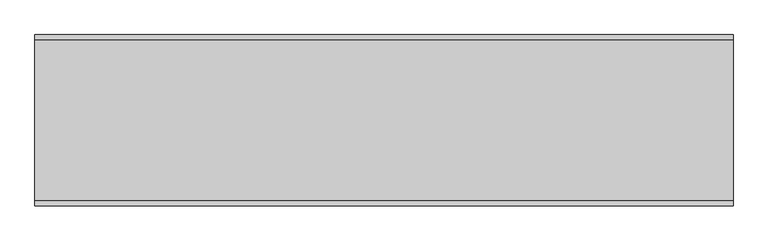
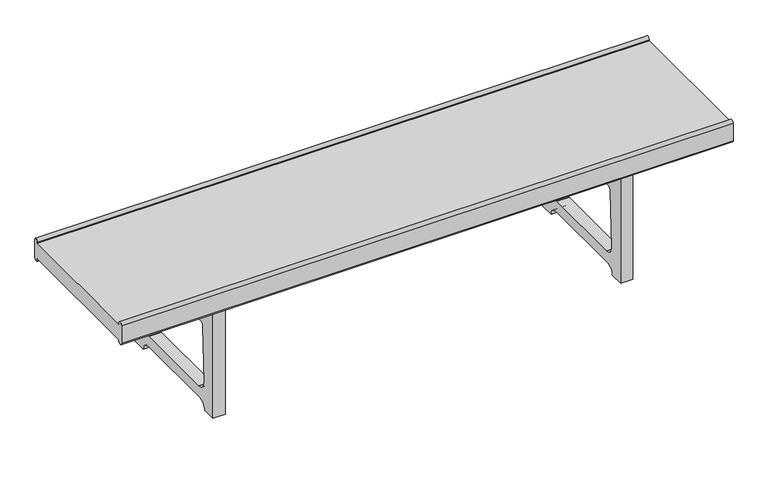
"""IFC4 building model written with IfcOpenShell, lengths in millimetres: furniture geometry, Krobo 150 : Krobo 150."""

import ifcopenshell
import ifcopenshell.guid

model = None  # the IFC model being written
_history = None  # IfcOwnerHistory: only IFC2X3 demands one
_inside = {}  # id of a spatial element -> (the spatial element, [elements in it])
_under = {}  # id of a project, library or spatial element -> (it, [spatial elements below it])
_declared = {}  # id of a project -> (the project, [libraries it declares])
_typed = {}  # id of a type object -> (the type object, [elements of that type])
_made_of = {}  # id of a material, layer set ... -> (it, [elements and type objects made of it])


def new_model(schema):
    """Start an empty IFC model of exactly this schema.

    Asked for "IFC4X3", IfcOpenShell would pick the latest addendum, in which some entities
    have other attributes; the version numbers below select the first issue.
    IFC2X3 requires an IfcOwnerHistory on every rooted entity: one is made here for all.
    """
    global model, _history
    if schema == "IFC4X3":
        model = ifcopenshell.file(schema_version=(4, 3, 0, 0))
    else:
        model = ifcopenshell.file(schema=schema)
    _inside.clear()
    _under.clear()
    _declared.clear()
    _typed.clear()
    _made_of.clear()
    _history = None
    if model.schema == "IFC2X3":
        org = make("IfcOrganization", Name="unknown")
        user = make(
            "IfcPersonAndOrganization",
            ThePerson=make("IfcPerson", FamilyName="unknown"),
            TheOrganization=org,
        )
        app = make(
            "IfcApplication",
            ApplicationDeveloper=org,
            Version="unknown",
            ApplicationFullName="unknown",
            ApplicationIdentifier="unknown",
        )
        _history = make(
            "IfcOwnerHistory",
            OwningUser=user,
            OwningApplication=app,
            ChangeAction="ADDED",
            CreationDate=0,
        )
    return model


def make(cls, **values):
    """One entity of the class cls with the attributes given. An attribute that is None is left unset."""
    return model.create_entity(
        cls, **{name: value for name, value in values.items() if value is not None}
    )


def rooted(cls, **values):
    """An entity with a GlobalId (a new one), such as an element, a storey or a relation."""
    return make(cls, GlobalId=ifcopenshell.guid.new(), OwnerHistory=_history, **values)


def si_unit(unit_type, name, prefix=None):
    """IfcSIUnit, for example si_unit("LENGTHUNIT", "METRE", prefix="MILLI")."""
    return make("IfcSIUnit", UnitType=unit_type, Prefix=prefix, Name=name)


def assignment(units):
    """IfcUnitAssignment: the units of a project."""
    return None if units is None else make("IfcUnitAssignment", Units=units)


def point(xyz):
    """IfcCartesianPoint."""
    return None if xyz is None else make("IfcCartesianPoint", Coordinates=xyz)


def direction(xyz):
    """IfcDirection."""
    return None if xyz is None else make("IfcDirection", DirectionRatios=xyz)


def frame(location, z_axis=None, x_axis=None):
    """IfcAxis2Placement3D, a coordinate frame: its origin and axes. An axis left out is left unset."""
    return make(
        "IfcAxis2Placement3D",
        Location=point(location),
        Axis=direction(z_axis),
        RefDirection=direction(x_axis),
    )


def frame_2d(location, x_axis=None):
    """IfcAxis2Placement2D, a coordinate frame in the plane: its origin and x axis."""
    return make(
        "IfcAxis2Placement2D", Location=point(location), RefDirection=direction(x_axis)
    )


def origin():
    """The frame at (0, 0, 0) with its axes left unset."""
    return frame((0.0, 0.0, 0.0))


def place(relative_to, where):
    """IfcLocalPlacement: puts the frame where relative to a parent placement (None: the world)."""
    return make(
        "IfcLocalPlacement", PlacementRelTo=relative_to, RelativePlacement=where
    )


def context(
    kind, dimensions, precision=None, world=None, true_north=None, identifier=None
):
    """IfcGeometricRepresentationContext, for example the 3D "Model" context."""
    return make(
        "IfcGeometricRepresentationContext",
        ContextIdentifier=identifier,
        ContextType=kind,
        CoordinateSpaceDimension=dimensions,
        Precision=precision,
        WorldCoordinateSystem=world,
        TrueNorth=true_north,
    )


def project(units=None, contexts=None):
    """IfcProject with its units and contexts."""
    return rooted(
        "IfcProject",
        Name="project",
        RepresentationContexts=contexts,
        UnitsInContext=assignment(units),
    )


def spatial(cls, under=None, at=None, **own):
    """A site, building, storey or space (cls), placed at a placement, below another one or the project."""
    s = rooted(cls, ObjectPlacement=at, **own)
    if under is not None:
        _under.setdefault(under.id(), (under, []))[1].append(s)
    return s


def polyline(points):
    """IfcPolyline through the points."""
    return make("IfcPolyline", Points=[point(p) for p in points])


def circle_curve(where, radius):
    """IfcCircle in the frame where."""
    return make("IfcCircle", Position=where, Radius=radius)


def trimmed(basis, trim1, trim2, sense, master):
    """IfcTrimmedCurve: the piece of a basis curve between two trims."""
    return make(
        "IfcTrimmedCurve",
        BasisCurve=basis,
        Trim1=trim1,
        Trim2=trim2,
        SenseAgreement=sense,
        MasterRepresentation=master,
    )


def segment(curve, same_sense, transition):
    """IfcCompositeCurveSegment."""
    return make(
        "IfcCompositeCurveSegment",
        Transition=transition,
        SameSense=same_sense,
        ParentCurve=curve,
    )


def composite_curve(segments, self_intersect=None):
    """IfcCompositeCurve: segments joined end to end."""
    return make("IfcCompositeCurve", Segments=segments, SelfIntersect=self_intersect)


def outline(outer, holes=None, kind="AREA"):
    """IfcArbitraryClosedProfileDef: a profile drawn as a closed curve; with holes, ...WithVoids."""
    if holes is None:
        return make("IfcArbitraryClosedProfileDef", ProfileType=kind, OuterCurve=outer)
    return make(
        "IfcArbitraryProfileDefWithVoids",
        ProfileType=kind,
        OuterCurve=outer,
        InnerCurves=holes,
    )


def extrude(swept, where, along, depth):
    """IfcExtrudedAreaSolid: the profile swept, set in the frame where, extruded along a direction by depth."""
    return make(
        "IfcExtrudedAreaSolid",
        SweptArea=swept,
        Position=where,
        ExtrudedDirection=direction(along),
        Depth=depth,
    )


def shape(context_of_items, identifier, shape_type, items):
    """IfcShapeRepresentation: the items that make up one representation, for example the "Body"."""
    return make(
        "IfcShapeRepresentation",
        ContextOfItems=context_of_items,
        RepresentationIdentifier=identifier,
        RepresentationType=shape_type,
        Items=items,
    )


def source(mapping_origin, context_of_items, identifier, shape_type, items):
    """IfcRepresentationMap: a shape defined once, which mapped items show again and again."""
    return make(
        "IfcRepresentationMap",
        MappingOrigin=mapping_origin,
        MappedRepresentation=shape(context_of_items, identifier, shape_type, items),
    )


def transform(
    local_origin,
    x_axis=None,
    y_axis=None,
    z_axis=None,
    scale=None,
    scale2=None,
    scale3=None,
    uniform=True,
):
    """IfcCartesianTransformationOperator3D, or its non-uniform kind. x_axis, y_axis, z_axis: its Axis1, 2, 3."""
    if uniform:
        return make(
            "IfcCartesianTransformationOperator3D",
            Axis1=direction(x_axis),
            Axis2=direction(y_axis),
            LocalOrigin=point(local_origin),
            Scale=scale,
            Axis3=direction(z_axis),
        )
    return make(
        "IfcCartesianTransformationOperator3DnonUniform",
        Axis1=direction(x_axis),
        Axis2=direction(y_axis),
        LocalOrigin=point(local_origin),
        Scale=scale,
        Axis3=direction(z_axis),
        Scale2=scale2,
        Scale3=scale3,
    )


def mapped(mapping_source, mapping_target):
    """IfcMappedItem: shows the shape of a source again, moved by a transform."""
    return make(
        "IfcMappedItem", MappingSource=mapping_source, MappingTarget=mapping_target
    )


def made_of(thing, what):
    """Note that an element or type object is made of a material, layer set ...; save() writes the relation."""
    if what is not None:
        _made_of.setdefault(what.id(), (what, []))[1].append(thing)
    return thing


def element(
    cls,
    number,
    at=None,
    inside=None,
    cuts=None,
    type_object=None,
    material=None,
    context=None,
    identifier="Body",
    shape_type=None,
    held_by="IfcProductDefinitionShape",
    body=None,
    shapes=None,
    **own,
):
    """One element of the class cls, such as IfcWall. Its Tag is "e" and its number.

    at: its placement. inside: the storey or other place that contains it. cuts: it is an
    opening in that element (IfcRelVoidsElement). A single representation is given by context,
    identifier, shape_type and body (its items); several are given by shapes. held_by: the class
    of the entity that holds the representations. save() writes the other relations.
    """
    e = rooted(cls, Tag="e%d" % number, ObjectPlacement=at, **own)
    if body is not None:
        shapes = [shape(context, identifier, shape_type, body)]
    if shapes is not None:
        e.Representation = make(held_by, Representations=shapes)
    if inside is not None:
        _inside.setdefault(inside.id(), (inside, []))[1].append(e)
    if cuts is not None:
        rooted(
            "IfcRelVoidsElement", RelatingBuildingElement=cuts, RelatedOpeningElement=e
        )
    if type_object is not None:
        _typed.setdefault(type_object.id(), (type_object, []))[1].append(e)
    return made_of(e, material)


def aggregate(whole, parts):
    """IfcRelAggregates: a whole, such as a stair, and the parts it consists of."""
    return rooted("IfcRelAggregates", RelatingObject=whole, RelatedObjects=parts)


def save(model, path):
    """Write the relations noted so far, then the file.

    IfcRelAggregates (storeys below a building ...), IfcRelContainedInSpatialStructure (elements
    in a storey), IfcRelDefinesByType, IfcRelAssociatesMaterial and IfcRelDeclares: one each for
    every whole, place, type object, material and project.
    """
    for whole, parts in _under.values():
        aggregate(whole, parts)
    for where, things in _inside.values():
        rooted(
            "IfcRelContainedInSpatialStructure",
            RelatedElements=things,
            RelatingStructure=where,
        )
    for kind, things in _typed.values():
        rooted("IfcRelDefinesByType", RelatedObjects=things, RelatingType=kind)
    for what, things in _made_of.values():
        rooted("IfcRelAssociatesMaterial", RelatedObjects=things, RelatingMaterial=what)
    for by, libraries in _declared.values():
        rooted("IfcRelDeclares", RelatingContext=by, RelatedDefinitions=libraries)
    model.write(path)


def furniture_7ae28927(model_context):
    return source(origin(), model_context, "Body", "SweptSolid", [
        extrude(outline(polyline([(221.4777934, -911.8892434), (221.4777934, -941.8892434), (291.4777934, -1068.1725863), (291.4777934, -1108.1725863), (288.4777934, -1108.1725863), (288.4777934, -1068.9484391), (218.4777934, -942.6650962), (218.4777934, -911.1133907), (288.4777934, -784.8300478), (288.4777934, -745.6059006), (291.4777934, -745.6059006), (291.4777934, -785.6059006), (221.4777934, -911.8892434)])), frame((0.0, -91.1720243, 0.0), z_axis=(0.0, 1.0, 0.0), x_axis=(0.0, 0.0, 1.0)), (0.0, 0.0, 1.0), 40.0),
        extrude(outline(composite_curve([segment(polyline([(-236.1720243, 0.0), (-236.1720243, 291.4777934), (93.8279757, 291.4777934), (93.8279757, 0.0), (58.9655776, 0.0)]), True, "CONTINUOUS"), segment(trimmed(circle_curve(frame_2d((39.0776023, 0.1117109)), 19.8882891), [point((58.9655776, 0.0))], [point((39.0776023, 20.0))], True, "CARTESIAN"), True, "CONTINUOUS"), segment(polyline([(39.0776023, 20.0), (-181.4216509, 20.0)]), True, "CONTINUOUS"), segment(trimmed(circle_curve(frame_2d((-181.4216509, 0.1117109)), 19.8882891), [point((-181.4216509, 20.0))], [point((-201.3096263, 0.0))], True, "CARTESIAN"), True, "CONTINUOUS"), segment(polyline([(-201.3096263, 0.0), (-236.1720243, 0.0)]), True, "CONTINUOUS")], self_intersect=False), holes=[composite_curve([segment(polyline([(38.5085476, 221.4777934), (-180.8525962, 221.4777934)]), True, "CONTINUOUS"), segment(trimmed(circle_curve(frame_2d((-180.8525962, 211.4777934)), 10.0), [point((-180.8525962, 221.4777934))], [point((-190.8446916, 211.8753226))], True, "CARTESIAN"), True, "CONTINUOUS"), segment(polyline([(-190.8446916, 211.8753226), (-196.4291755, 71.5065322)]), True, "CONTINUOUS"), segment(trimmed(circle_curve(frame_2d((-176.6359804, 68.6378341)), 20.0), [point((-196.4291755, 71.5065322))], [point((-176.6359804, 48.6378341))], True, "CARTESIAN"), True, "CONTINUOUS"), segment(polyline([(-176.6359804, 48.6378341), (34.2919318, 48.6378341)]), True, "CONTINUOUS"), segment(trimmed(circle_curve(frame_2d((34.2919318, 68.6378341)), 20.0), [point((34.2919318, 48.6378341))], [point((54.0851268, 71.5065322))], True, "CARTESIAN"), True, "CONTINUOUS"), segment(polyline([(54.0851268, 71.5065322), (48.500643, 211.8753226)]), True, "CONTINUOUS"), segment(trimmed(circle_curve(frame_2d((38.5085476, 211.4777934)), 10.0), [point((48.500643, 211.8753226))], [point((38.5085476, 221.4777934))], True, "CARTESIAN"), True, "CONTINUOUS")], self_intersect=False)]), frame((-941.8892434, 0.0, 0.0), z_axis=(1.0, 0.0, 0.0), x_axis=(0.0, 1.0, 0.0)), (0.0, 0.0, 1.0), 30.0),
        extrude(outline(polyline([(221.4777934, 58.0486284), (291.4777934, -68.2347145), (291.4777934, -108.2347145), (288.4777934, -108.2347145), (288.4777934, -69.0105672), (218.4777934, 57.2727756), (218.4777934, 88.8244812), (288.4777934, 215.107824), (288.4777934, 254.3319713), (291.4777934, 254.3319713), (291.4777934, 214.3319713), (221.4777934, 88.0486284), (221.4777934, 58.0486284)])), frame((0.0, -91.1720243, 0.0), z_axis=(0.0, 1.0, 0.0), x_axis=(0.0, 0.0, 1.0)), (0.0, 0.0, 1.0), 40.0),
        extrude(outline(composite_curve([segment(polyline([(-236.1720243, 0.0), (-236.1720243, 291.4777934), (93.8279757, 291.4777934), (93.8279757, 0.0), (58.9655776, 0.0)]), True, "CONTINUOUS"), segment(trimmed(circle_curve(frame_2d((39.0776023, 0.1117109)), 19.8882891), [point((58.9655776, 0.0))], [point((39.0776023, 20.0))], True, "CARTESIAN"), True, "CONTINUOUS"), segment(polyline([(39.0776023, 20.0), (-181.4216509, 20.0)]), True, "CONTINUOUS"), segment(trimmed(circle_curve(frame_2d((-181.4216509, 0.1117109)), 19.8882891), [point((-181.4216509, 20.0))], [point((-201.3096263, 0.0))], True, "CARTESIAN"), True, "CONTINUOUS"), segment(polyline([(-201.3096263, 0.0), (-236.1720243, 0.0)]), True, "CONTINUOUS")], self_intersect=False), holes=[composite_curve([segment(polyline([(38.5085476, 221.4777934), (-180.8525962, 221.4777934)]), True, "CONTINUOUS"), segment(trimmed(circle_curve(frame_2d((-180.8525962, 211.4777934)), 10.0), [point((-180.8525962, 221.4777934))], [point((-190.8446916, 211.8753226))], True, "CARTESIAN"), True, "CONTINUOUS"), segment(polyline([(-190.8446916, 211.8753226), (-196.4291755, 71.5065322)]), True, "CONTINUOUS"), segment(trimmed(circle_curve(frame_2d((-176.6359804, 68.6378341)), 20.0), [point((-196.4291755, 71.5065322))], [point((-176.6359804, 48.6378341))], True, "CARTESIAN"), True, "CONTINUOUS"), segment(polyline([(-176.6359804, 48.6378341), (34.2919318, 48.6378341)]), True, "CONTINUOUS"), segment(trimmed(circle_curve(frame_2d((34.2919318, 68.6378341)), 20.0), [point((34.2919318, 48.6378341))], [point((54.0851268, 71.5065322))], True, "CARTESIAN"), True, "CONTINUOUS"), segment(polyline([(54.0851268, 71.5065322), (48.500643, 211.8753226)]), True, "CONTINUOUS"), segment(trimmed(circle_curve(frame_2d((38.5085476, 211.4777934)), 10.0), [point((48.500643, 211.8753226))], [point((38.5085476, 221.4777934))], True, "CARTESIAN"), True, "CONTINUOUS")], self_intersect=False)]), frame((58.0486284, 0.0, 0.0), z_axis=(1.0, 0.0, 0.0), x_axis=(0.0, 1.0, 0.0)), (0.0, 0.0, 1.0), 30.0),
        extrude(outline(composite_curve([segment(polyline([(-244.1720243, 331.4777934), (101.8279757, 331.4777934), (101.8279757, 334.5)]), True, "CONTINUOUS"), segment(trimmed(circle_curve(frame_2d((107.3279757, 334.5)), 5.5), [point((101.8279757, 334.5))], [point((112.8279757, 334.5))], False, "CARTESIAN"), True, "CONTINUOUS"), segment(polyline([(112.8279757, 334.5), (112.8279757, 288.4555868)]), True, "CONTINUOUS"), segment(trimmed(circle_curve(frame_2d((107.3279757, 288.4555868)), 5.5), [point((112.8279757, 288.4555868))], [point((101.8279757, 288.4555868))], False, "CARTESIAN"), True, "CONTINUOUS"), segment(polyline([(101.8279757, 288.4555868), (101.8279757, 291.4777934), (-244.1720243, 291.4777934), (-244.1720243, 288.4555868)]), True, "CONTINUOUS"), segment(trimmed(circle_curve(frame_2d((-249.6720243, 288.4555868)), 5.5), [point((-244.1720243, 288.4555868))], [point((-255.1720243, 288.4555868))], False, "CARTESIAN"), True, "CONTINUOUS"), segment(polyline([(-255.1720243, 288.4555868), (-255.1720243, 334.5)]), True, "CONTINUOUS"), segment(trimmed(circle_curve(frame_2d((-249.6720243, 334.5)), 5.5), [point((-255.1720243, 334.5))], [point((-244.1720243, 334.5))], False, "CARTESIAN"), True, "CONTINUOUS"), segment(polyline([(-244.1720243, 334.5), (-244.1720243, 331.4777934)]), True, "CONTINUOUS")], self_intersect=False)), frame((-1176.9513716, 0.0, 0.0), z_axis=(1.0, 0.0, 0.0), x_axis=(0.0, 1.0, 0.0)), (0.0, 0.0, 1.0), 1500.0),
    ])


if __name__ == "__main__":
    model = new_model("IFC4")
    model_context = context("Model", 3, world=origin())
    ifc_project = project(units=[si_unit("LENGTHUNIT", "METRE", prefix="MILLI")], contexts=[model_context])
    site = spatial("IfcSite", under=ifc_project)
    building = spatial("IfcBuilding", under=site)
    placement = place(None, origin())
    furniture_shape = furniture_7ae28927(model_context)
    element("IfcFurniture", 1, ObjectType="Krobo 150 : Krobo 150", at=placement, inside=building, context=model_context, shape_type="MappedRepresentation", body=[
        mapped(furniture_shape, transform((0.0, 0.0, 0.0), x_axis=(1.0, 0.0, 0.0), y_axis=(0.0, 1.0, 0.0), z_axis=(0.0, 0.0, 1.0))),
    ])
    save(model, "model.ifc")
